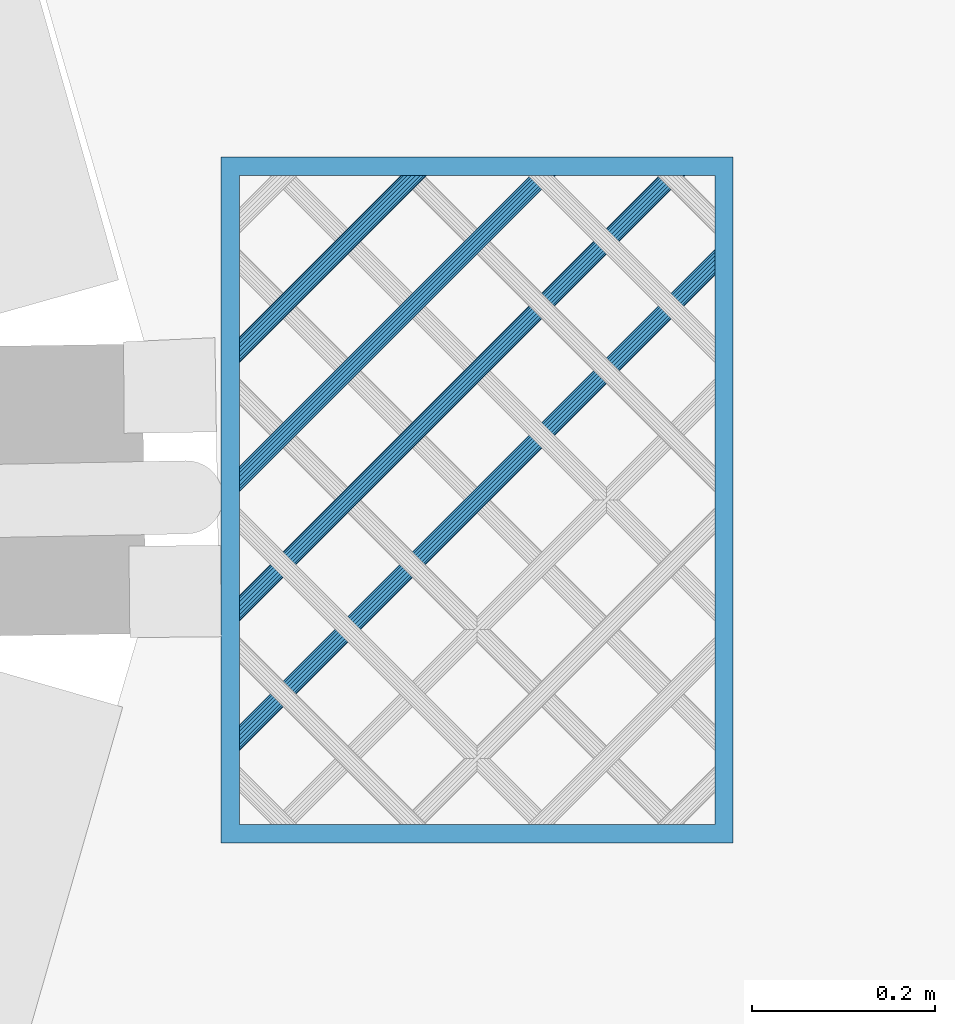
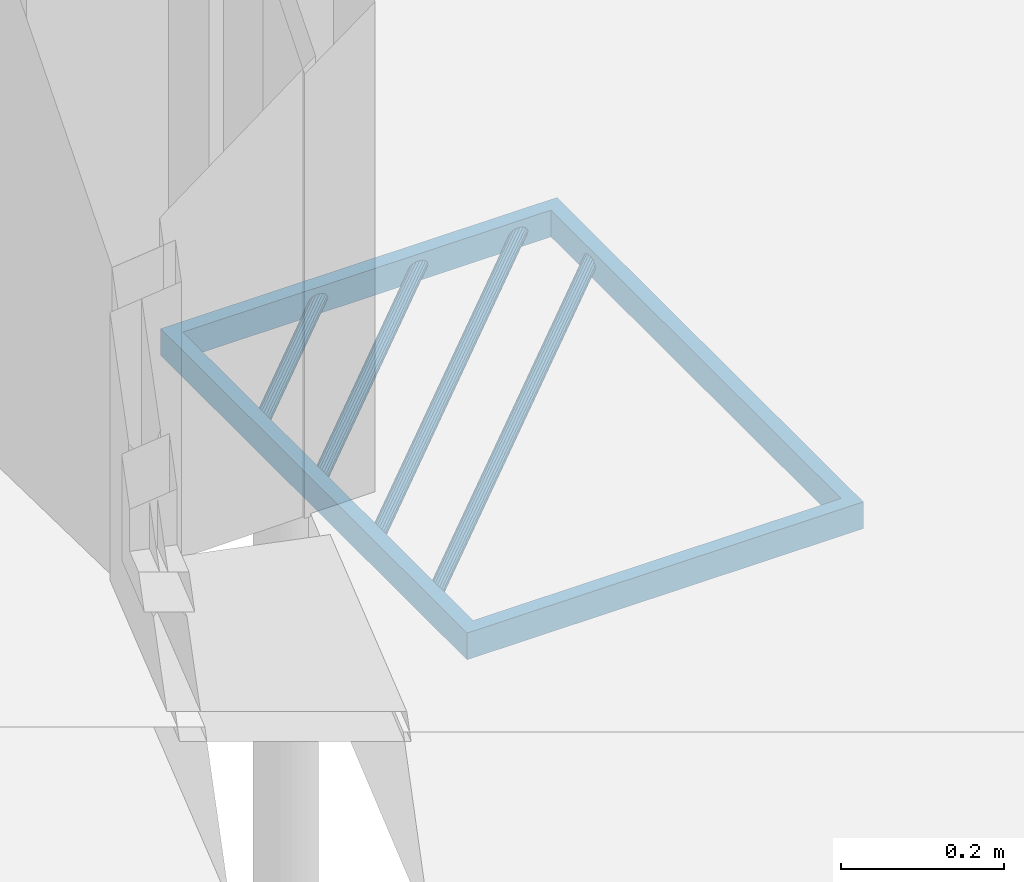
# One storey, part 46 of 133: 5 members, 1 element without a shape of its own.
"""IFC2X3 building model written with IfcOpenShell, lengths in centimetres."""

import ifcopenshell
import ifcopenshell.guid

model = None  # the IFC model being written
_history = None  # IfcOwnerHistory: only IFC2X3 demands one
_inside = {}  # id of a spatial element -> (the spatial element, [elements in it])
_under = {}  # id of a project, library or spatial element -> (it, [spatial elements below it])
_declared = {}  # id of a project -> (the project, [libraries it declares])
_typed = {}  # id of a type object -> (the type object, [elements of that type])
_made_of = {}  # id of a material, layer set ... -> (it, [elements and type objects made of it])


def new_model(schema):
    """Start an empty IFC model of exactly this schema.

    Asked for "IFC4X3", IfcOpenShell would pick the latest addendum, in which some entities
    have other attributes; the version numbers below select the first issue.
    IFC2X3 requires an IfcOwnerHistory on every rooted entity: one is made here for all.
    """
    global model, _history
    if schema == "IFC4X3":
        model = ifcopenshell.file(schema_version=(4, 3, 0, 0))
    else:
        model = ifcopenshell.file(schema=schema)
    _inside.clear()
    _under.clear()
    _declared.clear()
    _typed.clear()
    _made_of.clear()
    _history = None
    if model.schema == "IFC2X3":
        org = make("IfcOrganization", Name="unknown")
        user = make(
            "IfcPersonAndOrganization",
            ThePerson=make("IfcPerson", FamilyName="unknown"),
            TheOrganization=org,
        )
        app = make(
            "IfcApplication",
            ApplicationDeveloper=org,
            Version="unknown",
            ApplicationFullName="unknown",
            ApplicationIdentifier="unknown",
        )
        _history = make(
            "IfcOwnerHistory",
            OwningUser=user,
            OwningApplication=app,
            ChangeAction="ADDED",
            CreationDate=0,
        )
    return model


def make(cls, **values):
    """One entity of the class cls with the attributes given. An attribute that is None is left unset."""
    return model.create_entity(
        cls, **{name: value for name, value in values.items() if value is not None}
    )


def entity(cls, *values):
    """Any entity or typed value of the class cls, its attributes in the order of the schema. None: left unset."""
    e = model.create_entity(cls)
    for i, value in enumerate(values):
        if value is not None:
            e[i] = value
    return e


def rooted(cls, **values):
    """An entity with a GlobalId (a new one), such as an element, a storey or a relation."""
    return make(cls, GlobalId=ifcopenshell.guid.new(), OwnerHistory=_history, **values)


def si_unit(unit_type, name, prefix=None):
    """IfcSIUnit, for example si_unit("LENGTHUNIT", "METRE", prefix="MILLI")."""
    return make("IfcSIUnit", UnitType=unit_type, Prefix=prefix, Name=name)


def converted_unit(unit_type, name, factor, base, dimensions=None, offset=None):
    """IfcConversionBasedUnit, such as the inch: factor (a typed value) times the base unit."""
    return make(
        "IfcConversionBasedUnit"
        if offset is None
        else "IfcConversionBasedUnitWithOffset",
        ConversionOffset=offset,
        Dimensions=None
        if dimensions is None
        else entity("IfcDimensionalExponents", *dimensions),
        UnitType=unit_type,
        Name=name,
        ConversionFactor=make(
            "IfcMeasureWithUnit", ValueComponent=factor, UnitComponent=base
        ),
    )


def assignment(units):
    """IfcUnitAssignment: the units of a project."""
    return None if units is None else make("IfcUnitAssignment", Units=units)


def point(xyz):
    """IfcCartesianPoint."""
    return None if xyz is None else make("IfcCartesianPoint", Coordinates=xyz)


def direction(xyz):
    """IfcDirection."""
    return None if xyz is None else make("IfcDirection", DirectionRatios=xyz)


def frame(location, z_axis=None, x_axis=None):
    """IfcAxis2Placement3D, a coordinate frame: its origin and axes. An axis left out is left unset."""
    return make(
        "IfcAxis2Placement3D",
        Location=point(location),
        Axis=direction(z_axis),
        RefDirection=direction(x_axis),
    )


def origin():
    """The frame at (0, 0, 0) with its axes left unset."""
    return frame((0.0, 0.0, 0.0))


def origin_with_axes():
    """The frame at (0, 0, 0) with the z axis (0, 0, 1) and the x axis (1, 0, 0) written out."""
    return frame((0.0, 0.0, 0.0), z_axis=(0.0, 0.0, 1.0), x_axis=(1.0, 0.0, 0.0))


def place(relative_to, where):
    """IfcLocalPlacement: puts the frame where relative to a parent placement (None: the world)."""
    return make(
        "IfcLocalPlacement", PlacementRelTo=relative_to, RelativePlacement=where
    )


def context(
    kind, dimensions, precision=None, world=None, true_north=None, identifier=None
):
    """IfcGeometricRepresentationContext, for example the 3D "Model" context."""
    return make(
        "IfcGeometricRepresentationContext",
        ContextIdentifier=identifier,
        ContextType=kind,
        CoordinateSpaceDimension=dimensions,
        Precision=precision,
        WorldCoordinateSystem=world,
        TrueNorth=true_north,
    )


def subcontext(parent, identifier, kind, view, scale=None):
    """IfcGeometricRepresentationSubContext, for example "Body" below "Model"."""
    return make(
        "IfcGeometricRepresentationSubContext",
        ContextIdentifier=identifier,
        ContextType=kind,
        ParentContext=parent,
        TargetScale=scale,
        TargetView=view,
    )


def project(units=None, contexts=None):
    """IfcProject with its units and contexts."""
    return rooted(
        "IfcProject",
        Name="project",
        RepresentationContexts=contexts,
        UnitsInContext=assignment(units),
    )


def spatial(cls, under=None, at=None, **own):
    """A site, building, storey or space (cls), placed at a placement, below another one or the project."""
    s = rooted(cls, ObjectPlacement=at, **own)
    if under is not None:
        _under.setdefault(under.id(), (under, []))[1].append(s)
    return s


def faces_of(points, faces, orient=None, outer=None):
    """IfcFace entities. A face is a list of loops; a loop is a list of indices into points, from 0.

    orient and outer hold one flag for each loop. By default every Orientation is true, the
    first loop of a face is its IfcFaceOuterBound and the others are IfcFaceBound.
    """
    made = []
    for i, loops in enumerate(faces):
        bounds = []
        for j, loop in enumerate(loops):
            is_outer = j == 0 if outer is None else outer[i][j]
            bounds.append(
                make(
                    "IfcFaceOuterBound" if is_outer else "IfcFaceBound",
                    Bound=make("IfcPolyLoop", Polygon=[points[k] for k in loop]),
                    Orientation=True if orient is None else orient[i][j],
                )
            )
        made.append(make("IfcFace", Bounds=bounds))
    return made


def faceted_brep(points, faces, orient=None, outer=None, voids=None):
    """IfcFacetedBrep: a solid bounded by flat faces; with voids (closed shells), ...WithVoids."""
    shared = [point(p) for p in points]
    hull = make("IfcClosedShell", CfsFaces=faces_of(shared, faces, orient, outer))
    if voids is None:
        return make("IfcFacetedBrep", Outer=hull)
    return make(
        "IfcFacetedBrepWithVoids",
        Outer=hull,
        Voids=[
            make(cls, CfsFaces=faces_of(shared, fs, o, b)) for cls, fs, o, b in voids
        ],
    )


def shape(context_of_items, identifier, shape_type, items):
    """IfcShapeRepresentation: the items that make up one representation, for example the "Body"."""
    return make(
        "IfcShapeRepresentation",
        ContextOfItems=context_of_items,
        RepresentationIdentifier=identifier,
        RepresentationType=shape_type,
        Items=items,
    )


def material(Name=None, Category=None):
    """IfcMaterial."""
    return make("IfcMaterial", Name=Name, Category=Category)


def made_of(thing, what):
    """Note that an element or type object is made of a material, layer set ...; save() writes the relation."""
    if what is not None:
        _made_of.setdefault(what.id(), (what, []))[1].append(thing)
    return thing


def type_object(cls, material=None, **own):
    """A type object (cls), such as IfcWallType, which elements share."""
    return made_of(rooted(cls, **own), material)


def element(
    cls,
    number,
    at=None,
    inside=None,
    cuts=None,
    type_object=None,
    material=None,
    context=None,
    identifier="Body",
    shape_type=None,
    held_by="IfcProductDefinitionShape",
    body=None,
    shapes=None,
    **own,
):
    """One element of the class cls, such as IfcWall. Its Tag is "e" and its number.

    at: its placement. inside: the storey or other place that contains it. cuts: it is an
    opening in that element (IfcRelVoidsElement). A single representation is given by context,
    identifier, shape_type and body (its items); several are given by shapes. held_by: the class
    of the entity that holds the representations. save() writes the other relations.
    """
    e = rooted(cls, Tag="e%d" % number, ObjectPlacement=at, **own)
    if body is not None:
        shapes = [shape(context, identifier, shape_type, body)]
    if shapes is not None:
        e.Representation = make(held_by, Representations=shapes)
    if inside is not None:
        _inside.setdefault(inside.id(), (inside, []))[1].append(e)
    if cuts is not None:
        rooted(
            "IfcRelVoidsElement", RelatingBuildingElement=cuts, RelatedOpeningElement=e
        )
    if type_object is not None:
        _typed.setdefault(type_object.id(), (type_object, []))[1].append(e)
    return made_of(e, material)


def aggregate(whole, parts):
    """IfcRelAggregates: a whole, such as a stair, and the parts it consists of."""
    return rooted("IfcRelAggregates", RelatingObject=whole, RelatedObjects=parts)


def save(model, path):
    """Write the relations noted so far, then the file.

    IfcRelAggregates (storeys below a building ...), IfcRelContainedInSpatialStructure (elements
    in a storey), IfcRelDefinesByType, IfcRelAssociatesMaterial and IfcRelDeclares: one each for
    every whole, place, type object, material and project.
    """
    for whole, parts in _under.values():
        aggregate(whole, parts)
    for where, things in _inside.values():
        rooted(
            "IfcRelContainedInSpatialStructure",
            RelatedElements=things,
            RelatingStructure=where,
        )
    for kind, things in _typed.values():
        rooted("IfcRelDefinesByType", RelatedObjects=things, RelatingType=kind)
    for what, things in _made_of.values():
        rooted("IfcRelAssociatesMaterial", RelatedObjects=things, RelatingMaterial=what)
    for by, libraries in _declared.values():
        rooted("IfcRelDeclares", RelatingContext=by, RelatedDefinitions=libraries)
    model.write(path)


model = new_model("IFC2X3")

# Units and contexts
model_context = context("Model", 3, precision=0.0001, world=origin(), true_north=direction((0.225632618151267, 0.974212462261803, 0.0)))
body_context = subcontext(model_context, "Body", "Model", "MODEL_VIEW")
ifc_project = project(units=[si_unit("LENGTHUNIT", "METRE", prefix="CENTI"), si_unit("AREAUNIT", "SQUARE_METRE", prefix="CENTI"), si_unit("VOLUMEUNIT", "CUBIC_METRE", prefix="CENTI"), converted_unit("PLANEANGLEUNIT", "DEGREE", entity("IfcRatioMeasure", 0.0174532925), si_unit("PLANEANGLEUNIT", "RADIAN"), dimensions=[0, 0, 0, 0, 0, 0, 0])], contexts=[model_context])

# Site, building, storey
site_placement = place(None, origin_with_axes())
site = spatial("IfcSite", under=ifc_project, at=site_placement, Name="Default Site", CompositionType="ELEMENT")
building_placement = place(site_placement, origin_with_axes())
building = spatial("IfcBuilding", under=site, at=building_placement, Name="Default Building", CompositionType="ELEMENT")
storey_placement = place(building_placement, frame((0.0, 0.0, -291.400371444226), z_axis=(0.0, 0.0, 1.0), x_axis=(1.0, 0.0, 0.0)))
storey = spatial("IfcBuildingStorey", under=building, at=storey_placement, Name="Rez-de-Jardin", CompositionType="ELEMENT", Elevation=-291.400371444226)

# Assembly, members
building_element_proxy_type = type_object("IfcBuildingElementProxyType", Name="Type Object", PredefinedType="NOTDEFINED")
assembly_placement = place(storey_placement, frame((1661.43547545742, -586.48555921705, 97.0), z_axis=(0.0, 1.0, -2.38697950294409e-15), x_axis=(1.0, 0.0, 0.0)))
assembly = element("IfcElementAssembly", 1, at=assembly_placement, inside=storey, type_object=building_element_proxy_type, Name="Panneau 294972", ObjectType="Precast panel", PredefinedType="USERDEFINED")
ifc_material = material(Name="Aluminium satiné")
member_1_placement = place(assembly_placement, frame((1.99999995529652, 1.99999995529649, 73.0000019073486), z_axis=(0.999999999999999, 1.74961240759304e-31, -7.32981747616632e-17), x_axis=(0.0, 1.0, 2.38697950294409e-15)))
member_1 = element("IfcMember", 2, at=member_1_placement, material=ifc_material, Name="4294967002", context=body_context, shape_type="Brep", body=[
    faceted_brep([(-2.56739074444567e-14, 0.0, -5.20417042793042e-15), (-3.99999991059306, 0.0, -5.20417042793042e-15), (-3.99999991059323, -71.0000019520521, -5.20417042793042e-15), (-1.94982918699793e-13, -71.0000019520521, -5.20417042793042e-15), (-3.99999991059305, 1.99999809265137, -1.99999995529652), (-3.99999991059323, -73.0000019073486, -1.99999995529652), (-3.99999991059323, -71.0000019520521, 0.0), (-2.08166817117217e-14, 1.99999809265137, -1.99999995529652), (-1.99840144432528e-13, -73.0000019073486, -1.99999995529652), (-2.55906361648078e-14, -1.98766837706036e-31, -5.20417042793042e-15), (-1.95066185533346e-13, -71.0000019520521, -1.45684685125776e-47), (-1.94982918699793e-13, -71.0000019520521, 0.0), (-3.99999991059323, -71.0000019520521, -1.03599590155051e-30), (-3.99999991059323, -71.0000019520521, 52.0000021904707), (-1.94982918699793e-13, -71.0000019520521, 52.0000021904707), (-3.99999991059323, -73.0000019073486, 54.0000002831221), (-1.99840144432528e-13, -73.0000019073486, 54.0000002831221), (-1.95066185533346e-13, -71.0000019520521, -1.45684685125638e-47), (-1.95066185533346e-13, -71.0000019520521, 52.0000021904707), (-3.99999991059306, -2.5498227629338e-30, 52.0000021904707), (-2.56739074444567e-14, -2.5498227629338e-30, 52.0000021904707), (-3.99999991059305, 1.99999809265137, 54.0000002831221), (-3.99999991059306, 0.0, 52.0000021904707), (-2.08166817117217e-14, 1.99999809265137, 54.0000002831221), (-2.55906361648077e-14, -1.98766837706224e-31, 52.0000021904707), (-2.08166817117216e-14, 1.99999809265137, 54.0000002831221), (-2.56739074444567e-14, 0.0, 52.0000021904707), (-3.99999991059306, 9.54791779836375e-15, 52.0000021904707), (-3.99999991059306, -5.36581784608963e-15, -5.20417042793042e-15), (-2.56739074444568e-14, -1.49137356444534e-14, -5.20417042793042e-15), (-2.08166817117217e-14, 1.99999809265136, 54.0000002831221), (-2.08166817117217e-14, 1.99999809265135, -1.99999995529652), (-3.99999991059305, 1.99999809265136, -1.99999995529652), (-2.55906361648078e-14, -1.98766837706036e-31, 52.0000021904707), (-2.55906361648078e-14, -1.9876683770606e-31, -5.20417042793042e-15)], [[[0, 1, 2, 3]], [[1, 4, 5, 6]], [[4, 7, 8, 5]], [[7, 9, 10, 8]], [[11, 12, 13, 14]], [[6, 5, 15, 13]], [[5, 8, 16, 15]], [[8, 17, 18, 16]], [[14, 13, 19, 20]], [[13, 15, 21, 22]], [[15, 16, 23, 21]], [[16, 18, 24, 25]], [[26, 27, 28, 29]], [[22, 21, 4, 1]], [[21, 30, 31, 32]], [[23, 33, 34, 7]]]),
])
member_2_placement = place(assembly_placement, frame((22.4025189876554, 0.342020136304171, 73.0000019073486), z_axis=(1.16937634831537e-15, -1.43218776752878e-15, 1.0), x_axis=(0.632455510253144, -0.774596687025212, -1.84894641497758e-15)))
member_2 = element("IfcMember", 3, at=member_2_placement, material=ifc_material, Name="4294967000", context=body_context, shape_type="Brep", body=[
    faceted_brep([(-1.11022302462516e-13, -1.99840144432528e-13, 5.55111512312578e-14), (-0.388289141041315, -1.99840144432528e-13, 5.4793225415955e-14), (-0.799165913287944, -0.150249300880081, 5.4033536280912e-14), (-1.18307196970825, -0.432624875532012, 5.33237145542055e-14), (-1.49370326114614, -0.813068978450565, 5.27493739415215e-14), (-1.69359245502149, -1.24569368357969, 5.2379789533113e-14), (-1.75863072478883, -1.67831892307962, 5.22595372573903e-14), (-1.68097287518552, -2.05876302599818, 5.24031224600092e-14), (-1.46998625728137, -2.34113956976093, 5.27932254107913e-14), (-1.15111754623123, -2.49138806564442, 5.3382796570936e-14), (-0.762828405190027, -2.49138806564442, 5.41007223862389e-14), (-0.351951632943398, -2.34113876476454, 5.48604115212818e-14), (0.0319544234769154, -2.05876319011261, 5.55702332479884e-14), (0.342585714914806, -1.67831908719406, 5.61445738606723e-14), (0.54247490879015, -1.24569438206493, 5.65141582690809e-14), (0.607513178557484, -0.813069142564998, 5.66344105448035e-14), (0.529855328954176, -0.432625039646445, 5.64908253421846e-14), (0.318868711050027, -0.15024849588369, 5.61007223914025e-14), (-12.6387579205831, -16.0200361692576, -20.4878091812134), (-12.373830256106, -16.2363486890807, -20.4025208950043), (-12.1408567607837, -16.42657074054, -20.1569437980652), (-11.9679375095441, -16.56775870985, -19.7807013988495), (-11.8759290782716, -16.6428832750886, -19.3191707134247), (-11.8759290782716, -16.6428832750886, -18.8280165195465), (-11.9679375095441, -16.56775870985, -18.3664858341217), (-12.1408567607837, -16.42657074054, -17.990243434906), (-12.373830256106, -16.2363486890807, -17.7446663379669), (-12.6387579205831, -16.0200361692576, -17.6593840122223), (-12.9036855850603, -15.8037236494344, -17.7446663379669), (-13.1366590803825, -15.6135015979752, -17.990243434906), (-13.3095783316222, -15.4723136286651, -18.3664858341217), (-13.4015867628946, -15.3971890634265, -18.8280165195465), (-13.4015867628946, -15.3971890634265, -19.3191707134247), (-13.3095783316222, -15.4723136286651, -19.7807013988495), (-13.1366590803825, -15.6135015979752, -20.1569437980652), (-12.9036855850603, -15.8037236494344, -20.4025208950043), (0.318868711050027, -0.15024849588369, 5.55111512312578e-14), (0.529855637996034, -0.432624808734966, -3.74318436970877e-07), (-12.3738306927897, -16.2363490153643, -20.402520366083), (-12.6387586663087, -16.0200367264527, -20.4878082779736), (0.529855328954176, -0.432625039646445, 5.55111512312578e-14), (0.607513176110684, -0.813069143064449, 1.93442058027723e-09), (-12.1408569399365, -16.4265707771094, -20.1569436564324), (-12.3738311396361, -16.2363488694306, -20.4025201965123), (0.607513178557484, -0.813069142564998, 5.55111512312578e-14), (0.54247500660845, -1.24569439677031, -5.04749248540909e-08), (-11.9679381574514, -16.5677586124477, -19.7807010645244), (-12.1408569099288, -16.4265707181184, -20.1569437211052), (0.54247490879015, -1.24569438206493, 5.55111512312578e-14), (0.342585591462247, -1.6783190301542, 3.38954210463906e-08), (-11.8759295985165, -16.6428830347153, -19.3191705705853), (-11.9679379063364, -16.5677585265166, -19.7807012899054), (0.342585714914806, -1.67831908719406, 5.55111512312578e-14), (0.0319544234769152, -2.05876319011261, 5.55111512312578e-14), (0.0319544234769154, -2.05876319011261, 5.55111512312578e-14), (-0.35195155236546, -2.34113887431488, 3.38954209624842e-08), (-11.9679375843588, -16.567758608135, -18.3664858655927), (-11.8759292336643, -16.6428830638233, -18.8280165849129), (-0.351951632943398, -2.34113876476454, 5.55111512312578e-14), (-0.762828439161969, -2.49138797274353, -5.04749253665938e-08), (-12.1408567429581, -16.4265707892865, -17.990243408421), (-11.9679376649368, -16.5677582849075, -18.3664860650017), (-0.762828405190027, -2.49138806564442, 5.55111512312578e-14), (-1.15111754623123, -2.49138806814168, 1.93442137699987e-09), (-12.373830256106, -16.2363481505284, -17.7446667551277), (-12.1408567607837, -16.4265709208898, -17.9902432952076), (-1.15111754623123, -2.49138806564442, 5.55111512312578e-14), (-1.46998609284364, -2.34113922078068, -3.74318437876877e-07), (-12.6387587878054, -16.020038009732, -17.6593820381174), (-12.3738300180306, -16.2363481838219, -17.7446668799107), (-1.46998625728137, -2.34113956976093, 5.55111512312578e-14), (-1.68097318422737, -2.05876325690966, 3.7431854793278e-07), (-12.9036854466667, -15.8037235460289, -17.7446665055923), (-12.6387598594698, -16.0200376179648, -17.6593816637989), (-1.68097287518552, -2.05876302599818, 5.55111512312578e-14), (-1.75863072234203, -1.67831892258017, -1.93431141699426e-09), (-13.1366592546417, -15.6135016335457, -17.990243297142), (-12.9036850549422, -15.8037235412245, -17.7446667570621), (-1.75863072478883, -1.67831892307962, 5.55111512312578e-14), (-1.69359255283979, -1.24569366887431, 5.04750364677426e-08), (-13.3095779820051, -15.4723136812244, -18.3664860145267), (-13.1366592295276, -15.6135015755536, -17.990243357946), (-1.69359245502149, -1.24569368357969, 5.55111512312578e-14), (-1.49370313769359, -0.813069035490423, -3.38953091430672e-08), (-13.4015864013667, -15.3971892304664, -18.8280166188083), (-13.3095780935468, -15.4723137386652, -18.3664858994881), (-1.49370326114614, -0.813068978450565, 5.55111512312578e-14), (-1.18307196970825, -0.432624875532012, 5.55111512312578e-14), (-0.799165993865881, -0.150249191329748, -3.38953095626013e-08), (-13.3095781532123, -15.4723138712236, -19.7807013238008), (-13.4015865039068, -15.3971894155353, -19.3191706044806), (-0.799165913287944, -0.150249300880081, 5.55111512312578e-14), (-0.388289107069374, -9.29010905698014e-08, 5.04750362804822e-08), (-13.136658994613, -15.6135018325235, -20.1569436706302), (-13.3095780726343, -15.4723143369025, -19.7807010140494), (-0.388289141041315, -1.99840144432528e-13, 5.55111512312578e-14), (-1.1104799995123e-13, 2.49705561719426e-09, -1.93431027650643e-09), (-12.9036855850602, -15.8037245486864, -20.4025201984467), (-13.1366590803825, -15.613501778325, -20.1569436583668), (0.318868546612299, -0.150248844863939, 3.7431854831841e-07), (-12.6387584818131, -16.0200373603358, -20.4878079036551), (-12.9036859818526, -15.8037244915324, -20.4025199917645)], [[[0, 1, 2, 3, 4, 5, 6, 7, 8, 9, 10, 11, 12, 13, 14, 15, 16, 17]], [[18, 19, 20, 21, 22, 23, 24, 25, 26, 27, 28, 29, 30, 31, 32, 33, 34, 35]], [[36, 37, 38, 39]], [[40, 41, 42, 43]], [[44, 45, 46, 47]], [[48, 49, 50, 51]], [[52, 53, 23, 22]], [[54, 55, 56, 57]], [[58, 59, 60, 61]], [[62, 63, 64, 65]], [[66, 67, 68, 69]], [[70, 71, 72, 73]], [[74, 75, 76, 77]], [[78, 79, 80, 81]], [[82, 83, 84, 85]], [[86, 87, 32, 31]], [[87, 88, 89, 90]], [[91, 92, 93, 94]], [[95, 96, 97, 98]], [[0, 99, 100, 101]]]),
])
member_3_placement = place(assembly_placement, frame((36.5446537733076, 0.342020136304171, 73.0000019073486), z_axis=(1.16937492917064e-15, -1.4321947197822e-15, 1.0), x_axis=(0.632453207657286, -0.774598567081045, -1.84895090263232e-15)))
member_3 = element("IfcMember", 4, at=member_3_placement, material=ifc_material, Name="4294966999", context=body_context, shape_type="Brep", body=[
    faceted_brep([(4.44089209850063e-14, -2.05391259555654e-13, 4.44089209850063e-14), (-0.38828819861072, -1.99840144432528e-13, 4.36909951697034e-14), (-0.799165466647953, -0.150251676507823, 4.29313032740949e-14), (-1.18307068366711, -0.432628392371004, 4.2221481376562e-14), (-1.49370084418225, -0.813073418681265, 4.16471414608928e-14), (-1.69358875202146, -1.24569871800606, 4.12775585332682e-14), (-1.75862479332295, -1.67832299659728, 4.11573100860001e-14), (-1.68096675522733, -2.05876802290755, 4.13008959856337e-14), (-1.46997929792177, -2.34114393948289, 4.16910014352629e-14), (-1.15111014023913, -2.49139148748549, 4.22805748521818e-14), (-0.762820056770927, -2.49138917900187, 4.29985041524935e-14), (-0.351944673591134, -2.34113981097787, 4.37581925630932e-14), (0.0319605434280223, -2.05876309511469, 4.4468014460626e-14), (0.342590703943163, -1.67831806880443, 4.50423543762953e-14), (0.542478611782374, -1.24569276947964, 4.54119373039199e-14), (0.607516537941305, -0.813066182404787, 4.55321892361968e-14), (0.529856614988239, -0.432623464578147, 4.53885998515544e-14), (0.318869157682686, -0.150247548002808, 4.49984944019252e-14), (-21.5829488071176, -26.9745510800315, -34.6299439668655), (-21.3180204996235, -27.1908628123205, -34.5446556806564), (-21.0850464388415, -27.3810841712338, -34.2990815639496), (-20.9121267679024, -27.5222716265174, -33.9228361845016), (-20.8201181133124, -27.5973959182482, -33.4613054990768), (-20.8201181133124, -27.5973959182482, -32.9701542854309), (-20.9121267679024, -27.5222716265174, -32.5086236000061), (-21.0850464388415, -27.3810841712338, -32.1323812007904), (-21.3180204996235, -27.1908628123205, -31.8868041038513), (-21.5829488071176, -26.9745510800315, -31.8015158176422), (-21.8478771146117, -26.7582393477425, -31.8868041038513), (-22.0808511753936, -26.5680179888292, -32.1323812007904), (-22.2537708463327, -26.4268305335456, -32.5086236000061), (-22.3457795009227, -26.3517062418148, -32.9701542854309), (-22.3457795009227, -26.3517062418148, -33.4613054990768), (-22.2537708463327, -26.4268305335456, -33.9228361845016), (-22.0808511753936, -26.5680179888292, -34.2990815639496), (-21.8478771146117, -26.7582393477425, -34.5446556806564), (0.318869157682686, -0.150247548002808, 4.44089209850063e-14), (0.52985692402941, -0.43262323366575, -3.74318447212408e-07), (-21.3180209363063, -27.1908631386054, -34.5446551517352), (-21.5829495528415, -26.9745516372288, -34.6299430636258), (0.529856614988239, -0.432623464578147, 4.44089209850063e-14), (0.6075158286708, -0.813066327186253, 5.60727966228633e-07), (-21.0850480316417, -27.3810844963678, -34.2990803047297), (-21.3180213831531, -27.190862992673, -34.5446549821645), (0.607516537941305, -0.813066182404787, 4.44089209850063e-14), (0.542479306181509, -1.2456928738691, -3.58314985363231e-07), (-20.9121268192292, -27.5222716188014, -33.9228361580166), (-21.0850471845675, -27.3810840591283, -34.2990811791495), (0.542478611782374, -1.24569276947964, 4.44089209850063e-14), (0.342590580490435, -1.67831801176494, 3.38954098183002e-08), (-20.820118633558, -27.5973956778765, -33.4613053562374), (-20.9121271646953, -27.5222714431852, -33.9228360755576), (0.342590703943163, -1.67831806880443, 4.44089209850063e-14), (0.0319605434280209, -2.05876309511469, 4.44089209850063e-14), (0.0319605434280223, -2.05876309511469, 4.44089209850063e-14), (-0.35194459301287, -2.34113992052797, 3.38954100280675e-08), (-20.9121264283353, -27.5222720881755, -32.5086234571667), (-20.8201178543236, -27.5973962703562, -32.9701541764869), (-0.351944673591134, -2.34113981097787, 4.44089209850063e-14), (-0.762819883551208, -2.49138965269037, 2.57365110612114e-07), (-21.0850460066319, -27.3810853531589, -32.1323805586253), (-20.9121265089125, -27.522272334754, -32.508623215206), (-0.762820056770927, -2.49138917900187, 4.44089209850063e-14), (-1.15111014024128, -2.49139076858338, -5.56859144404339e-07), (-21.3180204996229, -27.1908629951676, -31.8868039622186), (-21.0850464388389, -27.381085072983, -32.1323805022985), (-1.15111014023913, -2.49139148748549, 4.44089209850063e-14), (-1.46997913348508, -2.34114359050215, -3.74318448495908e-07), (-21.5829490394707, -26.9745515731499, -31.8015152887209), (-21.3180208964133, -27.1908636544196, -31.8868032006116), (-1.46997929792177, -2.34114393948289, 4.44089209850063e-14), (-1.6809670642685, -2.05876825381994, 3.74318534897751e-07), (-21.8478781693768, -26.7582401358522, -31.8868028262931), (-21.5829495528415, -26.9745516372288, -31.8015149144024), (-1.68096675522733, -2.05876802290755, 4.44089209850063e-14), (-1.75862549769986, -1.67832314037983, 5.5685923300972e-07), (-22.0808527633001, -26.5680183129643, -32.1323799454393), (-21.8478779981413, -26.758239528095, -31.8868034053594), (-1.75862479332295, -1.67832299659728, 4.44089209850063e-14), (-1.69358825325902, -1.24569879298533, -2.57365020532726e-07), (-22.2537710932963, -26.4268304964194, -32.5086234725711), (-22.0808519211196, -26.5680178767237, -32.1323808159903), (-1.69358875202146, -1.24569871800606, 4.44089209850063e-14), (-1.49370072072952, -0.813073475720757, -3.38953209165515e-08), (-22.3457797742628, -26.351706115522, -32.9701542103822), (-22.2537712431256, -26.4268303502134, -32.5086234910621), (-1.49370084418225, -0.813073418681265, 4.44089209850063e-14), (-1.18307068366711, -0.432628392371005, 4.44089209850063e-14), (-1.18307068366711, -0.432628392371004, 4.44089209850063e-14), (-0.799165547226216, -0.150251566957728, -3.38953212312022e-08), (-22.2537706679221, -26.4268307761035, -33.922836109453), (-22.3457792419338, -26.3517065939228, -33.4613053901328), (-0.799165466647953, -0.150251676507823, 4.44089209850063e-14), (-0.388287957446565, -6.5949028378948e-07, 3.5831507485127e-07), (-22.0808506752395, -26.5680193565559, -34.2990808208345), (-22.2537705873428, -26.4268312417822, -33.9228357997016), (-0.38828819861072, -1.99840144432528e-13, 4.44089209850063e-14), (-2.11492048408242e-12, 7.2389642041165e-07, -5.60727878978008e-07), (-21.8478771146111, -26.7582395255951, -34.5446555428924), (-22.0808511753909, -26.5680188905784, -34.2990808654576), (0.318868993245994, -0.150247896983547, 3.74318537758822e-07), (-21.582949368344, -26.9745522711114, -34.6299426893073), (-21.8478775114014, -26.7582401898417, -34.5446547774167)], [[[0, 1, 2, 3, 4, 5, 6, 7, 8, 9, 10, 11, 12, 13, 14, 15, 16, 17]], [[18, 19, 20, 21, 22, 23, 24, 25, 26, 27, 28, 29, 30, 31, 32, 33, 34, 35]], [[36, 37, 38, 39]], [[40, 41, 42, 43]], [[44, 45, 46, 47]], [[48, 49, 50, 51]], [[52, 53, 23, 22]], [[54, 55, 56, 57]], [[58, 59, 60, 61]], [[62, 63, 64, 65]], [[66, 67, 68, 69]], [[70, 71, 72, 73]], [[74, 75, 76, 77]], [[78, 79, 80, 81]], [[82, 83, 84, 85]], [[86, 87, 32, 31]], [[88, 89, 90, 91]], [[92, 93, 94, 95]], [[96, 97, 98, 99]], [[0, 100, 101, 102]]]),
])
member_4_placement = place(assembly_placement, frame((50.6867885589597, 0.342020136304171, 73.0000019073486), z_axis=(1.16937209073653e-15, -1.43220862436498e-15, 1.0), x_axis=(0.632448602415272, -0.774602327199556, -1.84895987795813e-15)))
member_4 = element("IfcMember", 5, at=member_4_placement, material=ifc_material, Name="4294966998", context=body_context, shape_type="Brep", body=[
    faceted_brep([(-4.9960036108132e-14, 4.9960036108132e-14, 8.88178419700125e-14), (-0.388286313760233, 5.55111512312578e-14, 8.80999161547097e-14), (-0.799164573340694, -0.150256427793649, 8.73402187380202e-14), (-1.18306622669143, -0.432633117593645, 8.66303999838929e-14), (-1.49369412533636, -0.813079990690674, 8.60560614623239e-14), (-1.693581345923, -1.2457087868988, 8.56864780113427e-14), (-1.75861481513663, -1.678333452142, 8.55662337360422e-14), (-1.68095451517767, -2.05877801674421, 8.57098245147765e-14), (-1.46996349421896, -2.34115037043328, 8.60999384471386e-14), (-1.15109532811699, -2.49139833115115, 8.66895128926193e-14), (-0.762805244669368, -2.49139371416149, 8.74074456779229e-14), (-0.351930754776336, -2.34114190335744, 8.81671361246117e-14), (0.0319746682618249, -2.05876059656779, 8.88769618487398e-14), (0.342602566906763, -1.67831372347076, 8.94513003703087e-14), (0.542486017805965, -1.24568954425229, 8.98208768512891e-14), (0.607523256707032, -0.813060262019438, 8.99411280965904e-14), (0.529859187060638, -0.43262031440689, 8.97975303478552e-14), (0.318870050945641, -0.150245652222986, 8.94074199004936e-14), (-30.5269618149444, -37.929209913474, -48.7720802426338), (-30.262032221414, -38.1455200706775, -48.6867919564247), (-30.0290570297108, -38.3357400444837, -48.4412163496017), (-29.8561365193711, -38.4769264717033, -48.0649724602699), (-29.7641274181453, -38.5520502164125, -47.6034432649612), (-29.7641274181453, -38.5520502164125, -47.1122920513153), (-29.8561365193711, -38.4769264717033, -46.6507583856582), (-30.0290570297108, -38.3357400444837, -46.2745159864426), (-30.262032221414, -38.1455200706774, -46.0289388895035), (-30.5269618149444, -37.929209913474, -45.9436535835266), (-30.7918914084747, -37.7128997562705, -46.0289388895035), (-31.024866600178, -37.5226797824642, -46.2745159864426), (-31.1977871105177, -37.3814933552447, -46.6507583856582), (-31.2897962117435, -37.3063696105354, -47.1122920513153), (-31.2897962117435, -37.3063696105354, -47.6034432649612), (-31.1977871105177, -37.3814933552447, -48.0649724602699), (-31.024866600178, -37.5226797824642, -48.4412163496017), (-30.7918914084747, -37.7128997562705, -48.6867919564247), (0.318870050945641, -0.150245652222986, 8.88178419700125e-14), (0.529859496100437, -0.432620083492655, -3.74318403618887e-07), (-30.2620332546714, -38.1455208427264, -48.6867907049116), (-30.5269631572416, -37.9292109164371, -48.7720786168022), (0.529859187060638, -0.43262031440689, 8.88178419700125e-14), (0.607521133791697, -0.813060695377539, 1.6783151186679e-06), (-30.029058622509, -38.3357403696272, -48.4412150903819), (-30.2620338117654, -38.1455203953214, -48.6867906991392), (0.607523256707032, -0.813060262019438, 8.88178419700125e-14), (0.542487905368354, -1.24568982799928, -9.73995031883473e-07), (-29.8561359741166, -38.4769265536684, -48.0649727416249), (-30.0290565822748, -38.3357401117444, -48.4412165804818), (0.542486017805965, -1.24568954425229, 8.88178419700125e-14), (0.342601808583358, -1.67831337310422, 2.08205923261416e-07), (-29.7641285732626, -38.5520496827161, -47.6034429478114), (-29.8561372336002, -38.4769261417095, -48.0649722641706), (0.342602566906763, -1.67831372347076, 8.88178419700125e-14), (0.0319746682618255, -2.05876059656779, 8.88178419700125e-14), (-29.7641274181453, -38.5520502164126, -47.1122920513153), (-29.7641274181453, -38.5520502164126, -47.6034432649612), (0.0319746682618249, -2.05876059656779, 8.88178419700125e-14), (-0.351931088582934, -2.34114144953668, -1.40415014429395e-07), (-29.8561365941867, -38.476926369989, -46.6507584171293), (-29.7641271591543, -38.552050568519, -47.1122919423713), (-0.351930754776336, -2.34114190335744, 8.88178419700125e-14), (-0.762805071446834, -2.49139418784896, 2.57365153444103e-07), (-30.0290565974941, -38.3357412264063, -46.2745153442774), (-29.8561362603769, -38.4769271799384, -46.6507580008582), (-0.762805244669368, -2.49139371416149, 8.88178419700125e-14), (-1.1510953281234, -2.49139761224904, -5.56859098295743e-07), (-30.2620322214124, -38.1455202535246, -46.0289387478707), (-30.0290570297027, -38.3357409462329, -46.2745152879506), (-1.15109532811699, -2.49139833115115, 8.88178419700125e-14), (-1.46996396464, -2.34115136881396, 1.07086521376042e-06), (-30.5269626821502, -37.9292117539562, -45.9436516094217), (-30.2620326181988, -38.145520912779, -46.0289379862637), (-1.46996349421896, -2.34115037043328, 8.88178419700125e-14), (-1.68095363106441, -2.05877735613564, -1.07086503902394e-06), (-30.7918912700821, -37.7128996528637, -46.0289390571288), (-30.5269625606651, -37.9292104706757, -45.9436526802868), (-1.68095451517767, -2.05877801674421, 8.88178419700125e-14), (-1.75861551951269, -1.67833359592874, 5.56859281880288e-07), (-31.0248681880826, -37.5226801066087, -46.2745147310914), (-30.7918922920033, -37.7128999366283, -46.0289381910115), (-1.75861481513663, -1.678333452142, 8.88178419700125e-14), (-1.6935808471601, -1.24570886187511, -2.57364980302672e-07), (-31.1977873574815, -37.38149331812, -46.6507582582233), (-31.0248673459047, -37.5226796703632, -46.2745156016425), (-1.693581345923, -1.2457087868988, 8.88178419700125e-14), (-1.49369463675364, -0.81307975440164, 1.40415193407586e-07), (-31.2897971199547, -37.3063691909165, -47.1122918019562), (-31.1977875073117, -37.3814931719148, -46.6507582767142), (-1.49369412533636, -0.813079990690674, 8.88178419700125e-14), (-1.18306622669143, -0.432633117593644, 8.88178419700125e-14), (-1.18306622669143, -0.432633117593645, 8.88178419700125e-14), (-0.799165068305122, -0.150255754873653, -2.08205745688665e-07), (-31.1977871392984, -37.3814933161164, -48.0649724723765), (-31.2897959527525, -37.3063699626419, -47.6034431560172), (-0.799164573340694, -0.150256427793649, 8.88178419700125e-14), (-0.388285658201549, -1.7926647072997e-06, 9.73995212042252e-07), (-31.0248661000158, -37.522681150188, -48.4412156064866), (-31.1977866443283, -37.3814946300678, -48.0649717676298), (-0.388286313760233, 5.55111512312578e-14, 8.88178419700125e-14), (-1.9394731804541e-11, 2.16669540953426e-06, -1.67831494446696e-06), (-30.7918914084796, -37.7128992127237, -48.6867923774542), (-31.0248666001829, -37.5226792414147, -48.4412167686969), (0.318869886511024, -0.150246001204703, 3.74318583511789e-07), (-30.5269626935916, -37.9292117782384, -48.7720782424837), (-30.7918921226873, -37.7129012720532, -48.6867903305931)], [[[0, 1, 2, 3, 4, 5, 6, 7, 8, 9, 10, 11, 12, 13, 14, 15, 16, 17]], [[18, 19, 20, 21, 22, 23, 24, 25, 26, 27, 28, 29, 30, 31, 32, 33, 34, 35]], [[36, 37, 38, 39]], [[40, 41, 42, 43]], [[44, 45, 46, 47]], [[48, 49, 50, 51]], [[52, 53, 54, 55]], [[56, 57, 58, 59]], [[60, 61, 62, 63]], [[64, 65, 66, 67]], [[68, 69, 70, 71]], [[72, 73, 74, 75]], [[76, 77, 78, 79]], [[80, 81, 82, 83]], [[84, 85, 86, 87]], [[88, 89, 32, 31]], [[90, 91, 92, 93]], [[94, 95, 96, 97]], [[98, 99, 100, 101]], [[0, 102, 103, 104]]]),
])
member_5_placement = place(assembly_placement, frame((54.000002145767, 0.342020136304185, 62.171071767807), z_axis=(0.999999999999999, 0.0, 0.0), x_axis=(0.0, -0.774594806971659, -0.632457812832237)))
member_5 = element("IfcMember", 6, at=member_5_placement, material=ifc_material, Name="4294966997", context=body_context, shape_type="Brep", body=[
    faceted_brep([(-1.66533453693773e-14, 7.21644966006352e-14, 2.22044604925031e-14), (-0.388290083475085, 6.66133814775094e-14, 2.22044604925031e-14), (-0.799166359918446, -0.150246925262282, 2.22044604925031e-14), (-1.18307325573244, -0.432621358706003, 2.22044604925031e-14), (-1.49370756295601, -0.813066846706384, 2.22044604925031e-14), (-1.69359804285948, -1.24569095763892, 2.22044604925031e-14), (-1.75863665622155, -1.67831484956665, 2.22044604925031e-14), (-1.68098087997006, -2.05876033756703, 2.22044604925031e-14), (-1.4699951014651, -2.34113750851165, 2.22044604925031e-14), (-1.15112683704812, -2.4913869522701, 2.22044604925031e-14), (-0.762836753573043, -2.49138695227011, 2.22044604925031e-14), (-0.351960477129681, -2.34114002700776, 2.22044604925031e-14), (0.0319464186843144, -2.05876559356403, 2.22044604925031e-14), (0.342580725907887, -1.67832010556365, 2.22044604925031e-14), (0.542471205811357, -1.24569599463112, 2.22044604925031e-14), (0.607509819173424, -0.813072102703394, 2.22044604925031e-14), (0.529854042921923, -0.432626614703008, 2.22044604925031e-14), (0.318868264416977, -0.150249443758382, 2.22044604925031e-14), (33.206672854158, 40.1286784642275, -52.0000021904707), (33.4176591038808, 39.8463018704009, -52.0000021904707), (33.4953158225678, 39.4658575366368, -52.0000021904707), (33.4302762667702, 39.0332324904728, -52.0000021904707), (33.2303853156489, 38.6006078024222, -52.0000021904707), (32.9197528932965, 38.2201646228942, -52.0000021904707), (32.5358459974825, 37.9377901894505, -52.0000021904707), (32.1249683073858, 37.7875415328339, -52.0000021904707), (31.7366791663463, 37.7875426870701, -52.0000021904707), (31.4178118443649, 37.9377932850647, -52.0000021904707), (31.2068251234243, 38.2201693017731, -52.0000021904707), (31.1291684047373, 38.6006136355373, -52.0000021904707), (31.1942084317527, 39.0332392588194, -52.0000021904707), (31.3940989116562, 39.4658633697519, -52.0000021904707), (31.7047313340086, 39.8463065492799, -52.0000021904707), (32.0886387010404, 40.1286815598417, -52.0000021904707), (32.4995159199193, 40.2789296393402, -52.0000021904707), (32.8878050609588, 40.278928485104, -52.0000021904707), (0.52985435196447, -0.432626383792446, 3.74318517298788e-07), (33.4176610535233, 39.8463033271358, -51.9999998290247), (33.2066747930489, 40.128679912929, -51.9999998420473), (0.607510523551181, -0.813071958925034, 5.56859208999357e-07), (33.4953177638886, 39.4658579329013, -52.0000006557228), (33.4176610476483, 39.8463022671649, -52.0000006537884), (0.542470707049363, -1.24569591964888, -2.57365042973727e-07), (33.4302774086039, 39.0332323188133, -52.0000016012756), (33.4953168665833, 39.4658573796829, -52.0000016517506), (0.342580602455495, -1.67832004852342, -3.38953440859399e-08), (33.2303862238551, 38.6006073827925, -52.0000019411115), (33.4302771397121, 39.0332320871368, -52.0000019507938), (0.0319464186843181, -2.05876559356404, 2.22044604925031e-14), (-0.351960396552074, -2.34114013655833, -3.38953412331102e-08), (32.5358458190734, 37.9377904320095, -52.000002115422), (32.9197526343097, 38.2201649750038, -52.0000020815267), (-0.762836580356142, -2.49138742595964, -2.57365042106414e-07), (32.1249679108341, 37.7875426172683, -52.0000016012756), (32.5358457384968, 37.9377908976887, -52.0000018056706), (-1.15112683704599, -2.491386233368, 5.56859206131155e-07), (31.7366791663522, 37.7875446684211, -52.0000006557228), (32.1249683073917, 37.7875435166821, -52.0000006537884), (-1.46999493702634, -2.34113715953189, 3.74318512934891e-07), (31.4178122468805, 37.9377941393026, -52.0000012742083), (31.736679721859, 37.7875438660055, -52.000000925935), (-1.6809811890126, -2.05876056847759, -3.74318469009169e-07), (31.2068258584, 38.2201698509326, -52.0000013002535), (31.4178122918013, 37.9377936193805, -52.0000016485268), (-1.75863736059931, -1.67831499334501, -5.568591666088e-07), (31.129169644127, 38.6006138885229, -52.0000012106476), (31.2068263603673, 38.2201695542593, -52.000001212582), (-1.69359754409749, -1.24569103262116, 2.5736508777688e-07), (31.19420967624, 39.0332390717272, -52.0000015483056), (31.129170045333, 38.6006133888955, -52.0000013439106), (-1.49370743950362, -0.813066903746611, 3.38953884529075e-08), (31.3940994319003, 39.4658631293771, -52.0000020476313), (31.1942088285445, 39.0332390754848, -52.0000020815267), (-1.18307325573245, -0.432621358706, 2.22044604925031e-14), (-0.799166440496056, -0.150246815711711, 3.38953866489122e-08), (32.0886380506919, 40.1286824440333, -52.0000019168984), (31.704730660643, 39.8463074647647, -52.0000019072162), (-0.388290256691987, 4.73689596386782e-07, 2.57365088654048e-07), (32.4995153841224, 40.2789311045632, -52.0000013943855), (32.0886381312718, 40.1286831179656, -52.0000013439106), (-2.14627870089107e-12, -7.18902043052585e-07, -5.56859169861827e-07), (32.8878050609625, 40.2789297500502, -52.0000012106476), (32.4995159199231, 40.2789309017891, -52.000001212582), (0.318868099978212, -0.150249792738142, -3.74318469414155e-07), (33.2066737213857, 40.1286803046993, -52.0000002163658), (32.8878059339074, 40.2789303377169, -52.0000002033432)], [[[0, 1, 2, 3, 4, 5, 6, 7, 8, 9, 10, 11, 12, 13, 14, 15, 16, 17]], [[18, 19, 20, 21, 22, 23, 24, 25, 26, 27, 28, 29, 30, 31, 32, 33, 34, 35]], [[17, 36, 37, 38]], [[16, 39, 40, 41]], [[15, 42, 43, 44]], [[14, 45, 46, 47]], [[13, 48, 23, 22]], [[12, 49, 50, 51]], [[11, 52, 53, 54]], [[10, 55, 56, 57]], [[9, 58, 59, 60]], [[8, 61, 62, 63]], [[7, 64, 65, 66]], [[6, 67, 68, 69]], [[5, 70, 71, 72]], [[4, 73, 32, 31]], [[3, 74, 75, 76]], [[2, 77, 78, 79]], [[1, 80, 81, 82]], [[0, 83, 84, 85]]]),
])
aggregate(assembly, [member_1, member_2, member_3, member_4, member_5])

save(model, "model.ifc")
